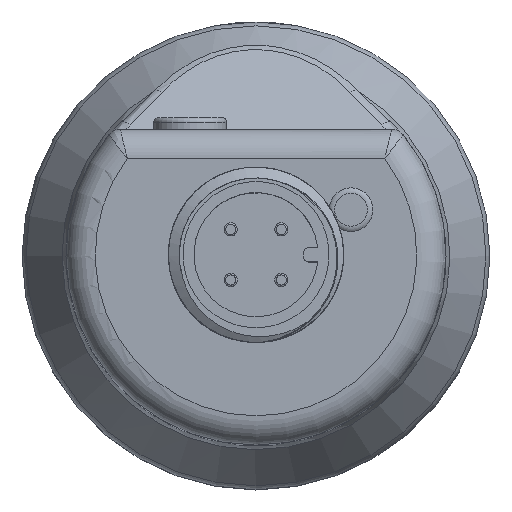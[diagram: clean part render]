
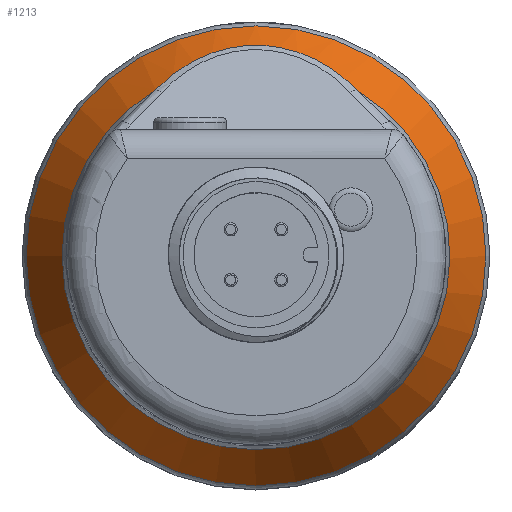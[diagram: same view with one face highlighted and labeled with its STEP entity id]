
A CAD part, top view. The second image highlights one B-rep face of the part: STEP entity #1213.
In plain terms, the highlighted conical face has half-angle 30 degrees and reference radius 13 mm.
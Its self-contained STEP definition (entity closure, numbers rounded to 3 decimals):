
#87=CONICAL_SURFACE('',#4455,13.,30.);
#172=B_SPLINE_CURVE_WITH_KNOTS('',3,(#11574,#11575,#11576,#11577,#11578,
#11579),.UNSPECIFIED.,.F.,.F.,(4,2,4),(0.,0.5,1.),.UNSPECIFIED.);
#962=FACE_BOUND('',#1857,.T.);
#963=FACE_BOUND('',#1858,.T.);
#1213=ADVANCED_FACE('',(#962,#963),#87,.T.);
#1857=EDGE_LOOP('',(#2681,#2682));
#1858=EDGE_LOOP('',(#2683));
#2681=ORIENTED_EDGE('',*,*,#3556,.T.);
#2682=ORIENTED_EDGE('',*,*,#3768,.T.);
#2683=ORIENTED_EDGE('',*,*,#3769,.T.);
#3150=VERTEX_POINT('',#9538);
#3151=VERTEX_POINT('',#9539);
#3291=VERTEX_POINT('',#11581);
#3556=EDGE_CURVE('',#3150,#3151,#4047,.T.);
#3768=EDGE_CURVE('',#3151,#3150,#172,.T.);
#3769=EDGE_CURVE('',#3291,#3291,#4099,.T.);
#4047=CIRCLE('',#4309,13.268);
#4099=CIRCLE('',#4454,15.732);
#4309=AXIS2_PLACEMENT_3D('',#9537,#4952,#4953);
#4454=AXIS2_PLACEMENT_3D('',#11580,#5341,#5342);
#4455=AXIS2_PLACEMENT_3D('',#11582,#5343,#5344);
#4952=DIRECTION('',(0.,0.,-1.));
#4953=DIRECTION('',(1.,0.,0.));
#5341=DIRECTION('',(0.,0.,1.));
#5342=DIRECTION('',(-1.,0.,0.));
#5343=DIRECTION('',(0.,0.,-1.));
#5344=DIRECTION('',(-1.,0.,0.));
#9537=CARTESIAN_POINT('',(0.,0.,14.836));
#9538=CARTESIAN_POINT('',(6.871,11.351,14.836));
#9539=CARTESIAN_POINT('',(-6.871,11.351,14.836));
#11574=CARTESIAN_POINT('',(-6.871,11.351,14.836));
#11575=CARTESIAN_POINT('',(-4.963,13.397,13.515));
#11576=CARTESIAN_POINT('',(-2.317,14.41,12.854));
#11577=CARTESIAN_POINT('',(2.291,14.417,12.849));
#11578=CARTESIAN_POINT('',(4.956,13.404,13.511));
#11579=CARTESIAN_POINT('',(6.871,11.351,14.836));
#11580=CARTESIAN_POINT('',(0.,0.,10.568));
#11581=CARTESIAN_POINT('',(-15.732,0.,10.568));
#11582=CARTESIAN_POINT('',(0.,0.,15.3));
